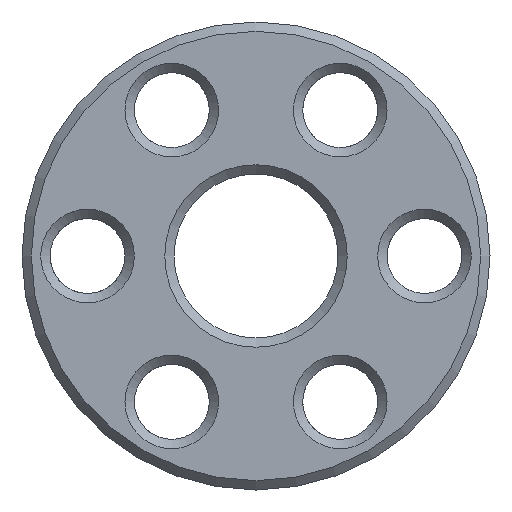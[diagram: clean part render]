
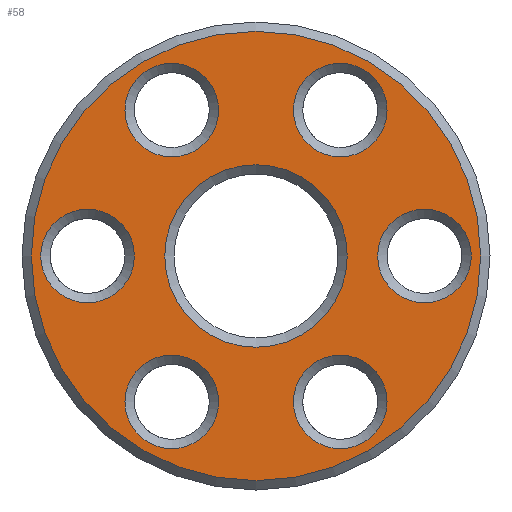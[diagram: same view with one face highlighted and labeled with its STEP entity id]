
A CAD part, left-side view. The second image highlights one B-rep face of the part: STEP entity #58.
In plain terms, the highlighted planar face has unit normal (-1, 0, 0).
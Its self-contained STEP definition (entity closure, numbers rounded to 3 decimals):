
#58 = ADVANCED_FACE( '', ( #133, #134, #135, #136, #137, #138, #139, #140 ), #141, .T. );
#133 = FACE_BOUND( '', #242, .T. );
#134 = FACE_BOUND( '', #243, .T. );
#135 = FACE_BOUND( '', #244, .T. );
#136 = FACE_BOUND( '', #245, .T. );
#137 = FACE_BOUND( '', #246, .T. );
#138 = FACE_BOUND( '', #247, .T. );
#139 = FACE_OUTER_BOUND( '', #248, .T. );
#140 = FACE_BOUND( '', #249, .T. );
#141 = PLANE( '', #250 );
#242 = EDGE_LOOP( '', ( #366 ) );
#243 = EDGE_LOOP( '', ( #367 ) );
#244 = EDGE_LOOP( '', ( #368 ) );
#245 = EDGE_LOOP( '', ( #369 ) );
#246 = EDGE_LOOP( '', ( #370 ) );
#247 = EDGE_LOOP( '', ( #371 ) );
#248 = EDGE_LOOP( '', ( #372 ) );
#249 = EDGE_LOOP( '', ( #373 ) );
#250 = AXIS2_PLACEMENT_3D( '', #374, #375, #376 );
#366 = ORIENTED_EDGE( '', *, *, #528, .T. );
#367 = ORIENTED_EDGE( '', *, *, #529, .T. );
#368 = ORIENTED_EDGE( '', *, *, #504, .T. );
#369 = ORIENTED_EDGE( '', *, *, #530, .T. );
#370 = ORIENTED_EDGE( '', *, *, #531, .T. );
#371 = ORIENTED_EDGE( '', *, *, #532, .T. );
#372 = ORIENTED_EDGE( '', *, *, #533, .T. );
#373 = ORIENTED_EDGE( '', *, *, #534, .T. );
#374 = CARTESIAN_POINT( '', ( 0., 0., 0. ) );
#375 = DIRECTION( '', ( -1., 0., 0. ) );
#376 = DIRECTION( '', ( 0., 0., 1. ) );
#504 = EDGE_CURVE( '', #570, #570, #571, .F. );
#528 = EDGE_CURVE( '', #613, #613, #614, .F. );
#529 = EDGE_CURVE( '', #615, #615, #616, .F. );
#530 = EDGE_CURVE( '', #617, #617, #618, .F. );
#531 = EDGE_CURVE( '', #619, #619, #620, .F. );
#532 = EDGE_CURVE( '', #621, #621, #622, .F. );
#533 = EDGE_CURVE( '', #623, #623, #624, .T. );
#534 = EDGE_CURVE( '', #625, #625, #626, .F. );
#570 = VERTEX_POINT( '', #670 );
#571 = CIRCLE( '', #671, 5. );
#613 = VERTEX_POINT( '', #767 );
#614 = CIRCLE( '', #768, 5. );
#615 = VERTEX_POINT( '', #769 );
#616 = CIRCLE( '', #770, 5. );
#617 = VERTEX_POINT( '', #771 );
#618 = CIRCLE( '', #772, 5. );
#619 = VERTEX_POINT( '', #773 );
#620 = CIRCLE( '', #774, 5. );
#621 = VERTEX_POINT( '', #775 );
#622 = CIRCLE( '', #776, 5. );
#623 = VERTEX_POINT( '', #777 );
#624 = CIRCLE( '', #778, 24. );
#625 = VERTEX_POINT( '', #779 );
#626 = CIRCLE( '', #780, 9.75 );
#670 = CARTESIAN_POINT( '', ( 0., 9., 20.588 ) );
#671 = AXIS2_PLACEMENT_3D( '', #824, #825, #826 );
#767 = CARTESIAN_POINT( '', ( 0., -18., 5. ) );
#768 = AXIS2_PLACEMENT_3D( '', #863, #864, #865 );
#769 = CARTESIAN_POINT( '', ( 0., -9., 20.588 ) );
#770 = AXIS2_PLACEMENT_3D( '', #866, #867, #868 );
#771 = CARTESIAN_POINT( '', ( 0., 18., 5. ) );
#772 = AXIS2_PLACEMENT_3D( '', #869, #870, #871 );
#773 = CARTESIAN_POINT( '', ( 0., 9., -10.588 ) );
#774 = AXIS2_PLACEMENT_3D( '', #872, #873, #874 );
#775 = CARTESIAN_POINT( '', ( 0., -9., -10.588 ) );
#776 = AXIS2_PLACEMENT_3D( '', #875, #876, #877 );
#777 = CARTESIAN_POINT( '', ( 0., 0., 24. ) );
#778 = AXIS2_PLACEMENT_3D( '', #878, #879, #880 );
#779 = CARTESIAN_POINT( '', ( 0., 0., 9.75 ) );
#780 = AXIS2_PLACEMENT_3D( '', #881, #882, #883 );
#824 = CARTESIAN_POINT( '', ( 0., 9., 15.588 ) );
#825 = DIRECTION( '', ( -1., 0., 0. ) );
#826 = DIRECTION( '', ( 0., 0., 1. ) );
#863 = CARTESIAN_POINT( '', ( 0., -18., 0. ) );
#864 = DIRECTION( '', ( -1., 0., 0. ) );
#865 = DIRECTION( '', ( 0., 0., 1. ) );
#866 = CARTESIAN_POINT( '', ( 0., -9., 15.588 ) );
#867 = DIRECTION( '', ( -1., 0., 0. ) );
#868 = DIRECTION( '', ( 0., 0., 1. ) );
#869 = CARTESIAN_POINT( '', ( 0., 18., 0. ) );
#870 = DIRECTION( '', ( -1., 0., 0. ) );
#871 = DIRECTION( '', ( 0., 0., 1. ) );
#872 = CARTESIAN_POINT( '', ( 0., 9., -15.588 ) );
#873 = DIRECTION( '', ( -1., 0., 0. ) );
#874 = DIRECTION( '', ( 0., 0., 1. ) );
#875 = CARTESIAN_POINT( '', ( 0., -9., -15.588 ) );
#876 = DIRECTION( '', ( -1., 0., 0. ) );
#877 = DIRECTION( '', ( 0., 0., 1. ) );
#878 = CARTESIAN_POINT( '', ( 0., 0., 0. ) );
#879 = DIRECTION( '', ( -1., 0., 0. ) );
#880 = DIRECTION( '', ( 0., 0., 1. ) );
#881 = CARTESIAN_POINT( '', ( 0., 0., 0. ) );
#882 = DIRECTION( '', ( -1., 0., 0. ) );
#883 = DIRECTION( '', ( 0., 0., 1. ) );
